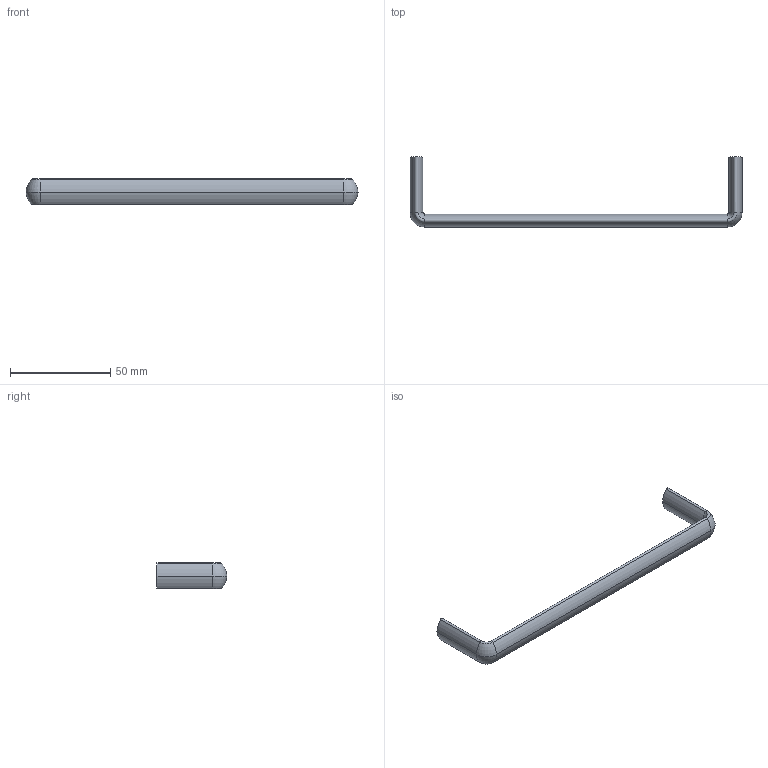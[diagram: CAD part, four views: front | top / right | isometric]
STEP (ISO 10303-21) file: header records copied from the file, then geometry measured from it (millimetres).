
FILE_DESCRIPTION( ( '' ), '1' );
FILE_NAME( 'C:/Users/Apurva/Desktop/Apurva/boma_handle/9995472.stp', '2015-07-08T05:45:50', ( '' ), ( '' ), ' ', ' ', ' ' );
FILE_SCHEMA( ( 'automotive_design' ) );
Length unit declared in the file: millimetre
Products named in the file (1): 1
Bounding box: 166 x 35 x 13 mm (x, y, z)
Volume: 12629.7 mm3; surface area: 6981.4 mm2
Topology: 1 solids, 1 shells, 38 faces, 78 edges, 44 vertices
Faces by surface type: cylinder 22, torus 12, plane 4
Entity records: 1944 total; most frequent: DIRECTION 212, STYLED_ITEM 161, PRESENTATION_STYLE_ASSIGNMENT 161, CARTESIAN_POINT 161, COLOUR_RGB 161, ORIENTED_EDGE 156, AXIS2_PLACEMENT_3D 95, EDGE_CURVE 78
